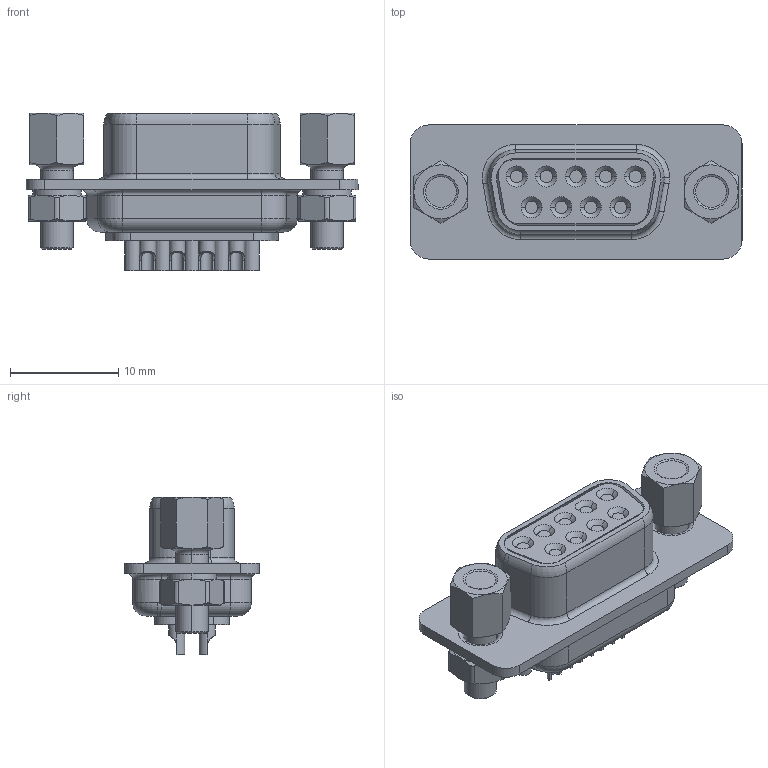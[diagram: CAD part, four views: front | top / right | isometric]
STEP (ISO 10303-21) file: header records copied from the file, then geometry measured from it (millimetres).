
FILE_DESCRIPTION (( 'STEP AP203' ), '1' );
FILE_NAME ('17JE-13090-02(D4C)A.STEP', '2021-07-30T04:30:30', ( '' ), ( '' ), 'SwSTEP 2.0', 'SolidWorks 2018', '' );
FILE_SCHEMA (( 'CONFIG_CONTROL_DESIGN' ));
Length unit declared in the file: millimetre
Products named in the file (1): 17JE-13090-02(D4C)A
Bounding box: 30.7 x 12.4 x 14.6 mm (x, y, z)
Volume: 2270.6 mm3; surface area: 3031.6 mm2
Topology: 1 solids, 1 shells, 402 faces, 972 edges, 582 vertices
Faces by surface type: cylinder 153, plane 124, cone 65, torus 56, bspline 4
Entity records: 12816 total; most frequent: CARTESIAN_POINT 3403, DIRECTION 2027, ORIENTED_EDGE 1908, EDGE_CURVE 954, AXIS2_PLACEMENT_3D 800, VERTEX_POINT 582, EDGE_LOOP 442, LINE 427
